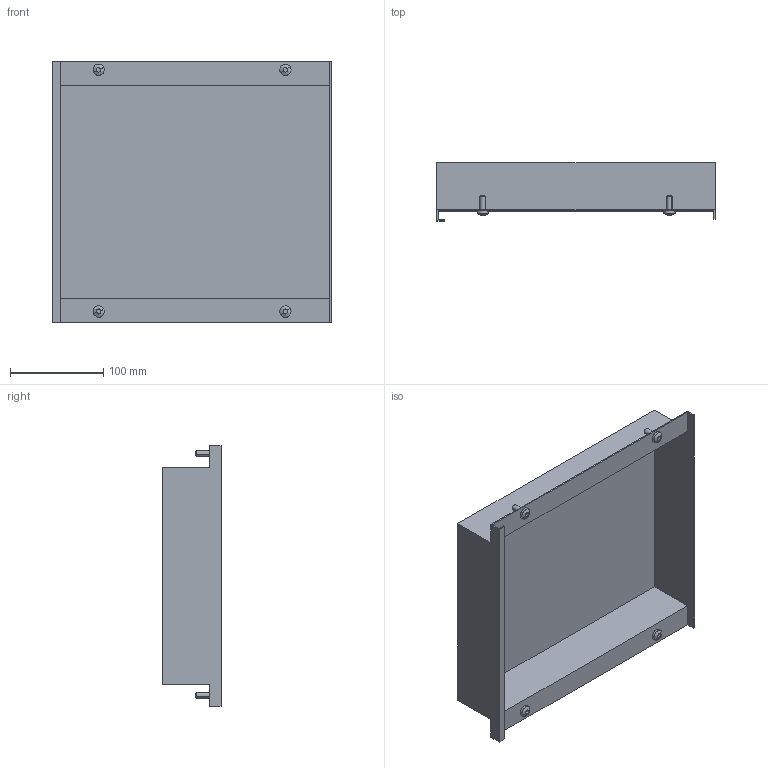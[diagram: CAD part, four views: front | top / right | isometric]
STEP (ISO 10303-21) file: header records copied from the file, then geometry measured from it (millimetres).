
FILE_DESCRIPTION (( 'STEP AP214' ), '1' );
FILE_NAME ('FO-00-PVSU-030-040 Ïëàñòðîí âíóòðåííèé óãëóáëåííûé 300õ400õ50.STEP', '2025-09-30T08:16:03', ( '' ), ( '' ), 'SwSTEP 2.0', 'SolidWorks 2023', '' );
FILE_SCHEMA (( 'AUTOMOTIVE_DESIGN' ));
Length unit declared in the file: millimetre
Products named in the file (3): FO-00-PVSU-030-040 Пластрон внутренний углубленный 300х400х50; Винты М6х16 30-40
Assembly tree (3 placements, depth 2):
  FO-00-PVSU-030-040 Пластрон внутренний углубленный 300х400х50
    FO-00-PVSU-030-040 Пластрон внутренний углубленный 300х400х50
    Винты М6х16 30-40  x2
Bounding box: 298 x 62.5 x 279 mm (x, y, z)
Volume: 203389.3 mm3; surface area: 290518.6 mm2
Topology: 5 solids, 5 shells, 156 faces, 410 edges, 268 vertices
Faces by surface type: cylinder 88, plane 48, cone 12, bspline 8
Entity records: 3431 total; most frequent: CARTESIAN_POINT 760, ORIENTED_EDGE 548, DIRECTION 530, EDGE_CURVE 274, AXIS2_PLACEMENT_3D 186, VERTEX_POINT 180, LINE 158, VECTOR 158
